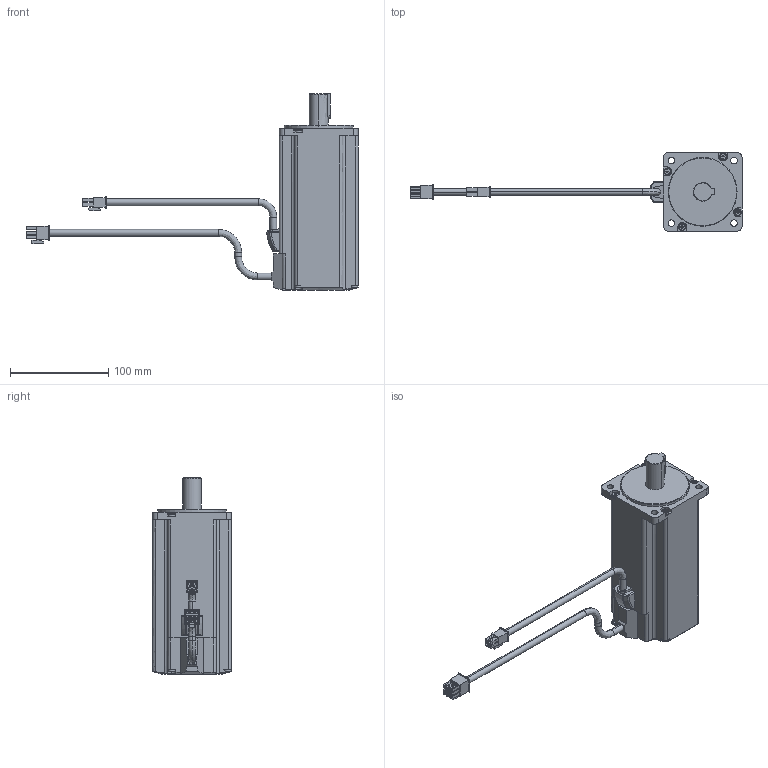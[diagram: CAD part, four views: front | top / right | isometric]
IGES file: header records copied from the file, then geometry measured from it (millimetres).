
Start section:  PTC IGES file: RSMZ-10BA3xS.igs
Global section: file name: RSMZ-10BA3xS.igs; native system: Pro/ENGINEER by Parametric Technology Corporation; preprocessor: 2004440; author: Administrator; organization: Unknown; date: 070904.190315; units: millimetre
Bounding box: 337.7 x 80 x 200 mm (x, y, z)
Volume: 947210.1 mm3; surface area: 82584.5 mm2
Topology: 1 solids, 1 shells, 462 faces, 1172 edges, 760 vertices
Faces by surface type: bspline 332, revolution 130
